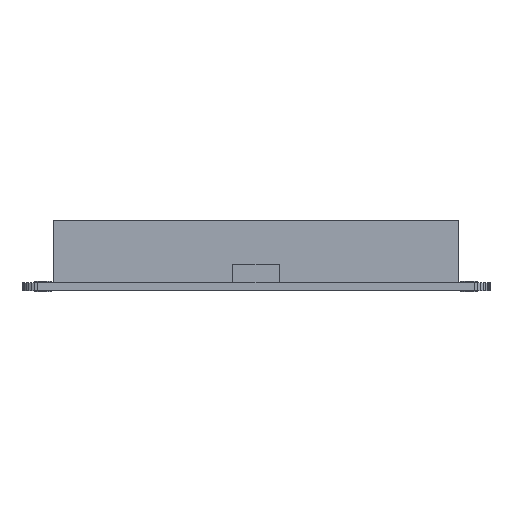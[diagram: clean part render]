
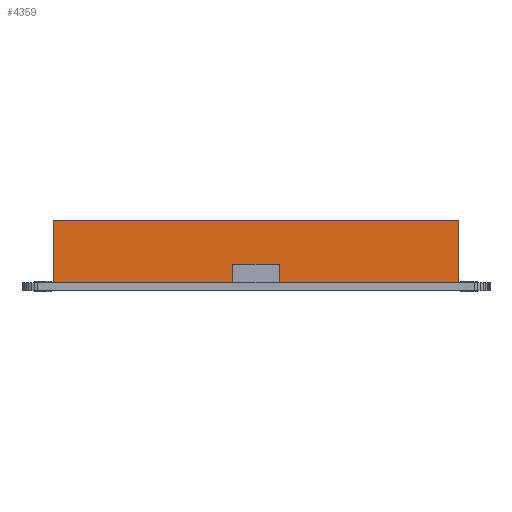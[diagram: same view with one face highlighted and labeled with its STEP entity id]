
A CAD part, front view. The second image highlights one B-rep face of the part: STEP entity #4359.
In plain terms, the highlighted planar face has unit normal (0, -1, 0).
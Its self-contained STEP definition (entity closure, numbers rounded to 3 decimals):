
#32 = PLANE('',#33);
#33 = AXIS2_PLACEMENT_3D('',#34,#35,#36);
#34 = CARTESIAN_POINT('',(6.,7.394,6.206));
#35 = DIRECTION('',(-1.,-0.,-0.));
#36 = DIRECTION('',(0.,0.,-1.));
#57 = VERTEX_POINT('',#58);
#58 = CARTESIAN_POINT('',(6.,2.,1.6));
#72 = PLANE('',#73);
#73 = AXIS2_PLACEMENT_3D('',#74,#75,#76);
#74 = CARTESIAN_POINT('',(5.616,62.619,1.6));
#75 = DIRECTION('',(0.,0.,1.));
#76 = DIRECTION('',(1.,0.,-0.));
#84 = EDGE_CURVE('',#57,#85,#87,.T.);
#85 = VERTEX_POINT('',#86);
#86 = CARTESIAN_POINT('',(6.,2.,13.6));
#87 = SURFACE_CURVE('',#88,(#92,#99),.PCURVE_S1.);
#88 = LINE('',#89,#90);
#89 = CARTESIAN_POINT('',(6.,2.,1.6));
#90 = VECTOR('',#91,1.);
#91 = DIRECTION('',(0.,0.,1.));
#92 = PCURVE('',#32,#93);
#93 = DEFINITIONAL_REPRESENTATION('',(#94),#98);
#94 = LINE('',#95,#96);
#95 = CARTESIAN_POINT('',(4.606,5.394));
#96 = VECTOR('',#97,1.);
#97 = DIRECTION('',(-1.,0.));
#98 = ( GEOMETRIC_REPRESENTATION_CONTEXT(2) 
PARAMETRIC_REPRESENTATION_CONTEXT() REPRESENTATION_CONTEXT('2D SPACE',''
  ) );
#99 = PCURVE('',#100,#105);
#100 = PLANE('',#101);
#101 = AXIS2_PLACEMENT_3D('',#102,#103,#104);
#102 = CARTESIAN_POINT('',(44.948,2.,11.45));
#103 = DIRECTION('',(-0.,-1.,-0.));
#104 = DIRECTION('',(0.,0.,-1.));
#105 = DEFINITIONAL_REPRESENTATION('',(#106),#110);
#106 = LINE('',#107,#108);
#107 = CARTESIAN_POINT('',(9.85,-38.948));
#108 = VECTOR('',#109,1.);
#109 = DIRECTION('',(-1.,0.));
#110 = ( GEOMETRIC_REPRESENTATION_CONTEXT(2) 
PARAMETRIC_REPRESENTATION_CONTEXT() REPRESENTATION_CONTEXT('2D SPACE',''
  ) );
#126 = PLANE('',#127);
#127 = AXIS2_PLACEMENT_3D('',#128,#129,#130);
#128 = CARTESIAN_POINT('',(46.898,7.898,13.6));
#129 = DIRECTION('',(0.,0.,1.));
#130 = DIRECTION('',(1.,0.,-0.));
#142 = VERTEX_POINT('',#143);
#143 = CARTESIAN_POINT('',(84.,2.,13.6));
#159 = PLANE('',#160);
#160 = AXIS2_PLACEMENT_3D('',#161,#162,#163);
#161 = CARTESIAN_POINT('',(84.,7.394,8.994));
#162 = DIRECTION('',(1.,0.,0.));
#163 = DIRECTION('',(-0.,0.,1.));
#193 = EDGE_CURVE('',#85,#142,#194,.T.);
#194 = SURFACE_CURVE('',#195,(#199,#206),.PCURVE_S1.);
#195 = LINE('',#196,#197);
#196 = CARTESIAN_POINT('',(6.,2.,13.6));
#197 = VECTOR('',#198,1.);
#198 = DIRECTION('',(1.,0.,0.));
#199 = PCURVE('',#126,#200);
#200 = DEFINITIONAL_REPRESENTATION('',(#201),#205);
#201 = LINE('',#202,#203);
#202 = CARTESIAN_POINT('',(-40.898,-5.898));
#203 = VECTOR('',#204,1.);
#204 = DIRECTION('',(1.,0.));
#205 = ( GEOMETRIC_REPRESENTATION_CONTEXT(2) 
PARAMETRIC_REPRESENTATION_CONTEXT() REPRESENTATION_CONTEXT('2D SPACE',''
  ) );
#206 = PCURVE('',#100,#207);
#207 = DEFINITIONAL_REPRESENTATION('',(#208),#212);
#208 = LINE('',#209,#210);
#209 = CARTESIAN_POINT('',(-2.15,-38.948));
#210 = VECTOR('',#211,1.);
#211 = DIRECTION('',(0.,1.));
#212 = ( GEOMETRIC_REPRESENTATION_CONTEXT(2) 
PARAMETRIC_REPRESENTATION_CONTEXT() REPRESENTATION_CONTEXT('2D SPACE',''
  ) );
#241 = EDGE_CURVE('',#142,#242,#244,.T.);
#242 = VERTEX_POINT('',#243);
#243 = CARTESIAN_POINT('',(84.,2.,1.6));
#244 = SURFACE_CURVE('',#245,(#249,#256),.PCURVE_S1.);
#245 = LINE('',#246,#247);
#246 = CARTESIAN_POINT('',(84.,2.,13.6));
#247 = VECTOR('',#248,1.);
#248 = DIRECTION('',(0.,0.,-1.));
#249 = PCURVE('',#159,#250);
#250 = DEFINITIONAL_REPRESENTATION('',(#251),#255);
#251 = LINE('',#252,#253);
#252 = CARTESIAN_POINT('',(4.606,5.394));
#253 = VECTOR('',#254,1.);
#254 = DIRECTION('',(-1.,0.));
#255 = ( GEOMETRIC_REPRESENTATION_CONTEXT(2) 
PARAMETRIC_REPRESENTATION_CONTEXT() REPRESENTATION_CONTEXT('2D SPACE',''
  ) );
#256 = PCURVE('',#100,#257);
#257 = DEFINITIONAL_REPRESENTATION('',(#258),#262);
#258 = LINE('',#259,#260);
#259 = CARTESIAN_POINT('',(-2.15,39.052));
#260 = VECTOR('',#261,1.);
#261 = DIRECTION('',(1.,0.));
#262 = ( GEOMETRIC_REPRESENTATION_CONTEXT(2) 
PARAMETRIC_REPRESENTATION_CONTEXT() REPRESENTATION_CONTEXT('2D SPACE',''
  ) );
#338 = PLANE('',#339);
#339 = AXIS2_PLACEMENT_3D('',#340,#341,#342);
#340 = CARTESIAN_POINT('',(49.5,1.367,2.983));
#341 = DIRECTION('',(1.,0.,0.));
#342 = DIRECTION('',(-0.,0.,1.));
#394 = PLANE('',#395);
#395 = AXIS2_PLACEMENT_3D('',#396,#397,#398);
#396 = CARTESIAN_POINT('',(40.5,1.367,2.983));
#397 = DIRECTION('',(-1.,-0.,-0.));
#398 = DIRECTION('',(0.,0.,-1.));
#1225 = EDGE_CURVE('',#242,#1226,#1228,.T.);
#1226 = VERTEX_POINT('',#1227);
#1227 = CARTESIAN_POINT('',(49.5,2.,1.6));
#1228 = SURFACE_CURVE('',#1229,(#1233,#1240),.PCURVE_S1.);
#1229 = LINE('',#1230,#1231);
#1230 = CARTESIAN_POINT('',(84.,2.,1.6));
#1231 = VECTOR('',#1232,1.);
#1232 = DIRECTION('',(-1.,0.,0.));
#1233 = PCURVE('',#72,#1234);
#1234 = DEFINITIONAL_REPRESENTATION('',(#1235),#1239);
#1235 = LINE('',#1236,#1237);
#1236 = CARTESIAN_POINT('',(78.384,-60.619));
#1237 = VECTOR('',#1238,1.);
#1238 = DIRECTION('',(-1.,0.));
#1239 = ( GEOMETRIC_REPRESENTATION_CONTEXT(2) 
PARAMETRIC_REPRESENTATION_CONTEXT() REPRESENTATION_CONTEXT('2D SPACE',''
  ) );
#1240 = PCURVE('',#100,#1241);
#1241 = DEFINITIONAL_REPRESENTATION('',(#1242),#1246);
#1242 = LINE('',#1243,#1244);
#1243 = CARTESIAN_POINT('',(9.85,39.052));
#1244 = VECTOR('',#1245,1.);
#1245 = DIRECTION('',(0.,-1.));
#1246 = ( GEOMETRIC_REPRESENTATION_CONTEXT(2) 
PARAMETRIC_REPRESENTATION_CONTEXT() REPRESENTATION_CONTEXT('2D SPACE',''
  ) );
#2294 = VERTEX_POINT('',#2295);
#2295 = CARTESIAN_POINT('',(40.5,2.,1.6));
#2316 = EDGE_CURVE('',#57,#2294,#2317,.T.);
#2317 = SURFACE_CURVE('',#2318,(#2322,#2329),.PCURVE_S1.);
#2318 = LINE('',#2319,#2320);
#2319 = CARTESIAN_POINT('',(6.,2.,1.6));
#2320 = VECTOR('',#2321,1.);
#2321 = DIRECTION('',(1.,0.,0.));
#2322 = PCURVE('',#72,#2323);
#2323 = DEFINITIONAL_REPRESENTATION('',(#2324),#2328);
#2324 = LINE('',#2325,#2326);
#2325 = CARTESIAN_POINT('',(0.384,-60.619));
#2326 = VECTOR('',#2327,1.);
#2327 = DIRECTION('',(1.,0.));
#2328 = ( GEOMETRIC_REPRESENTATION_CONTEXT(2) 
PARAMETRIC_REPRESENTATION_CONTEXT() REPRESENTATION_CONTEXT('2D SPACE',''
  ) );
#2329 = PCURVE('',#100,#2330);
#2330 = DEFINITIONAL_REPRESENTATION('',(#2331),#2335);
#2331 = LINE('',#2332,#2333);
#2332 = CARTESIAN_POINT('',(9.85,-38.948));
#2333 = VECTOR('',#2334,1.);
#2334 = DIRECTION('',(0.,1.));
#2335 = ( GEOMETRIC_REPRESENTATION_CONTEXT(2) 
PARAMETRIC_REPRESENTATION_CONTEXT() REPRESENTATION_CONTEXT('2D SPACE',''
  ) );
#4359 = ADVANCED_FACE('',(#4360),#100,.T.);
#4360 = FACE_BOUND('',#4361,.T.);
#4361 = EDGE_LOOP('',(#4362,#4363,#4364,#4365,#4388,#4416,#4437,#4438));
#4362 = ORIENTED_EDGE('',*,*,#193,.F.);
#4363 = ORIENTED_EDGE('',*,*,#84,.F.);
#4364 = ORIENTED_EDGE('',*,*,#2316,.T.);
#4365 = ORIENTED_EDGE('',*,*,#4366,.T.);
#4366 = EDGE_CURVE('',#2294,#4367,#4369,.T.);
#4367 = VERTEX_POINT('',#4368);
#4368 = CARTESIAN_POINT('',(40.5,2.,5.1));
#4369 = SURFACE_CURVE('',#4370,(#4374,#4381),.PCURVE_S1.);
#4370 = LINE('',#4371,#4372);
#4371 = CARTESIAN_POINT('',(40.5,2.,1.6));
#4372 = VECTOR('',#4373,1.);
#4373 = DIRECTION('',(0.,0.,1.));
#4374 = PCURVE('',#100,#4375);
#4375 = DEFINITIONAL_REPRESENTATION('',(#4376),#4380);
#4376 = LINE('',#4377,#4378);
#4377 = CARTESIAN_POINT('',(9.85,-4.448));
#4378 = VECTOR('',#4379,1.);
#4379 = DIRECTION('',(-1.,0.));
#4380 = ( GEOMETRIC_REPRESENTATION_CONTEXT(2) 
PARAMETRIC_REPRESENTATION_CONTEXT() REPRESENTATION_CONTEXT('2D SPACE',''
  ) );
#4381 = PCURVE('',#394,#4382);
#4382 = DEFINITIONAL_REPRESENTATION('',(#4383),#4387);
#4383 = LINE('',#4384,#4385);
#4384 = CARTESIAN_POINT('',(1.383,-0.633));
#4385 = VECTOR('',#4386,1.);
#4386 = DIRECTION('',(-1.,0.));
#4387 = ( GEOMETRIC_REPRESENTATION_CONTEXT(2) 
PARAMETRIC_REPRESENTATION_CONTEXT() REPRESENTATION_CONTEXT('2D SPACE',''
  ) );
#4388 = ORIENTED_EDGE('',*,*,#4389,.T.);
#4389 = EDGE_CURVE('',#4367,#4390,#4392,.T.);
#4390 = VERTEX_POINT('',#4391);
#4391 = CARTESIAN_POINT('',(49.5,2.,5.1));
#4392 = SURFACE_CURVE('',#4393,(#4397,#4404),.PCURVE_S1.);
#4393 = LINE('',#4394,#4395);
#4394 = CARTESIAN_POINT('',(40.5,2.,5.1));
#4395 = VECTOR('',#4396,1.);
#4396 = DIRECTION('',(1.,0.,0.));
#4397 = PCURVE('',#100,#4398);
#4398 = DEFINITIONAL_REPRESENTATION('',(#4399),#4403);
#4399 = LINE('',#4400,#4401);
#4400 = CARTESIAN_POINT('',(6.35,-4.448));
#4401 = VECTOR('',#4402,1.);
#4402 = DIRECTION('',(0.,1.));
#4403 = ( GEOMETRIC_REPRESENTATION_CONTEXT(2) 
PARAMETRIC_REPRESENTATION_CONTEXT() REPRESENTATION_CONTEXT('2D SPACE',''
  ) );
#4404 = PCURVE('',#4405,#4410);
#4405 = PLANE('',#4406);
#4406 = AXIS2_PLACEMENT_3D('',#4407,#4408,#4409);
#4407 = CARTESIAN_POINT('',(45.628,1.128,5.1));
#4408 = DIRECTION('',(0.,0.,1.));
#4409 = DIRECTION('',(1.,0.,-0.));
#4410 = DEFINITIONAL_REPRESENTATION('',(#4411),#4415);
#4411 = LINE('',#4412,#4413);
#4412 = CARTESIAN_POINT('',(-5.128,0.872));
#4413 = VECTOR('',#4414,1.);
#4414 = DIRECTION('',(1.,0.));
#4415 = ( GEOMETRIC_REPRESENTATION_CONTEXT(2) 
PARAMETRIC_REPRESENTATION_CONTEXT() REPRESENTATION_CONTEXT('2D SPACE',''
  ) );
#4416 = ORIENTED_EDGE('',*,*,#4417,.F.);
#4417 = EDGE_CURVE('',#1226,#4390,#4418,.T.);
#4418 = SURFACE_CURVE('',#4419,(#4423,#4430),.PCURVE_S1.);
#4419 = LINE('',#4420,#4421);
#4420 = CARTESIAN_POINT('',(49.5,2.,1.6));
#4421 = VECTOR('',#4422,1.);
#4422 = DIRECTION('',(0.,0.,1.));
#4423 = PCURVE('',#100,#4424);
#4424 = DEFINITIONAL_REPRESENTATION('',(#4425),#4429);
#4425 = LINE('',#4426,#4427);
#4426 = CARTESIAN_POINT('',(9.85,4.552));
#4427 = VECTOR('',#4428,1.);
#4428 = DIRECTION('',(-1.,0.));
#4429 = ( GEOMETRIC_REPRESENTATION_CONTEXT(2) 
PARAMETRIC_REPRESENTATION_CONTEXT() REPRESENTATION_CONTEXT('2D SPACE',''
  ) );
#4430 = PCURVE('',#338,#4431);
#4431 = DEFINITIONAL_REPRESENTATION('',(#4432),#4436);
#4432 = LINE('',#4433,#4434);
#4433 = CARTESIAN_POINT('',(-1.383,-0.633));
#4434 = VECTOR('',#4435,1.);
#4435 = DIRECTION('',(1.,0.));
#4436 = ( GEOMETRIC_REPRESENTATION_CONTEXT(2) 
PARAMETRIC_REPRESENTATION_CONTEXT() REPRESENTATION_CONTEXT('2D SPACE',''
  ) );
#4437 = ORIENTED_EDGE('',*,*,#1225,.F.);
#4438 = ORIENTED_EDGE('',*,*,#241,.F.);
